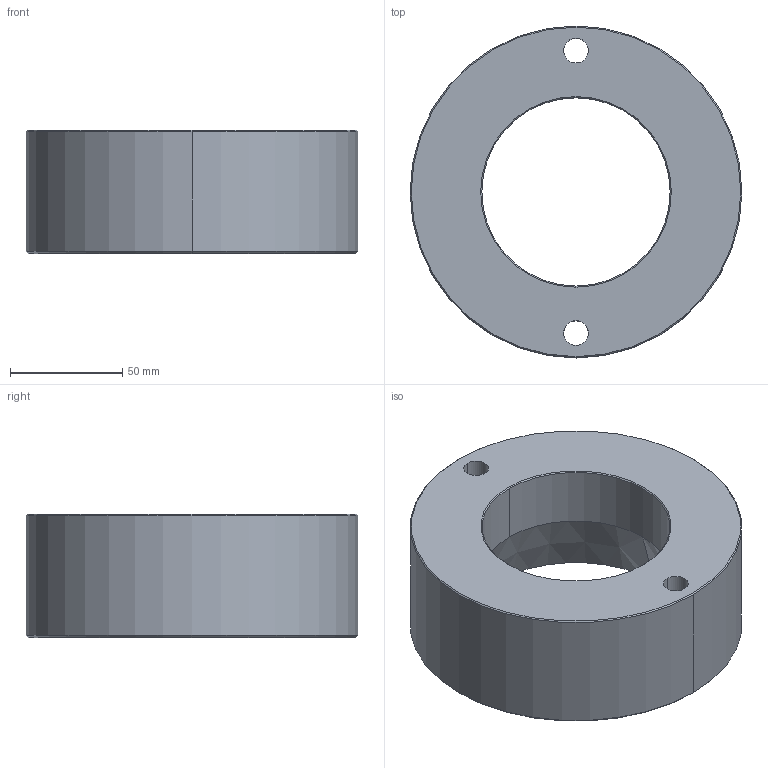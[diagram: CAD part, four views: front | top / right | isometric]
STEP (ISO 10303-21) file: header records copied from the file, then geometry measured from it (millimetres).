
FILE_DESCRIPTION((''),'2;1');
FILE_NAME('','2010-08-30T17:26:10+09:00',('misumi'),(''),'M/STEP i/f 1R2-14','CADmeister v5.1','');
FILE_SCHEMA(('AUTOMOTIVE_DESIGN'));
Length unit declared in the file: millimetre
Products named in the file (1): HKD60-55-N
Bounding box: 148 x 148 x 55 mm (x, y, z)
Volume: 596877.7 mm3; surface area: 65743.8 mm2
Topology: 1 solids, 1 shells, 24 faces, 54 edges, 34 vertices
Faces by surface type: cylinder 12, cone 8, plane 4
Entity records: 782 total; most frequent: DIRECTION 138, CARTESIAN_POINT 113, ORIENTED_EDGE 108, AXIS2_PLACEMENT_3D 59, EDGE_CURVE 54, VERTEX_POINT 34, CIRCLE 34, EDGE_LOOP 32
